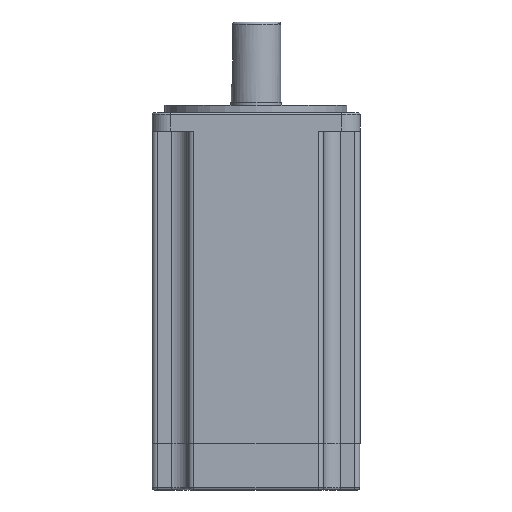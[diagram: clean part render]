
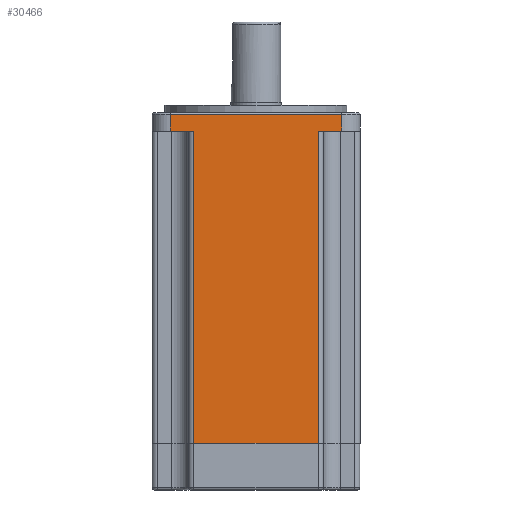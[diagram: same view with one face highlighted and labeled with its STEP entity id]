
A CAD part, front view. The second image highlights one B-rep face of the part: STEP entity #30466.
In plain terms, the highlighted planar face has unit normal (0, -1, 0).
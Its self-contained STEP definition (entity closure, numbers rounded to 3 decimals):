
#157 = VECTOR ( 'NONE', #29479, 1000. ) ;
#201 = LINE ( 'NONE', #25645, #12506 ) ;
#774 = VERTEX_POINT ( 'NONE', #10650 ) ;
#827 = ORIENTED_EDGE ( 'NONE', *, *, #15938, .T. ) ;
#940 = CARTESIAN_POINT ( 'NONE',  ( 33., -40., -0.5 ) ) ;
#1265 = VECTOR ( 'NONE', #30713, 1000. ) ;
#1709 = EDGE_CURVE ( 'NONE', #24470, #15819, #5233, .T. ) ;
#1771 = EDGE_CURVE ( 'NONE', #24470, #17342, #10955, .T. ) ;
#2164 = DIRECTION ( 'NONE',  ( 0., 0., 1. ) ) ;
#2236 = DIRECTION ( 'NONE',  ( 1., 0., 0. ) ) ;
#2256 = AXIS2_PLACEMENT_3D ( 'NONE', #13557, #30320, #2236 ) ;
#2413 = CARTESIAN_POINT ( 'NONE',  ( 33., -40., -7. ) ) ;
#2516 = CARTESIAN_POINT ( 'NONE',  ( -24., -40., -7. ) ) ;
#2786 = LINE ( 'NONE', #29350, #157 ) ;
#2924 = ORIENTED_EDGE ( 'NONE', *, *, #1709, .F. ) ;
#3229 = ORIENTED_EDGE ( 'NONE', *, *, #17495, .T. ) ;
#3668 = ORIENTED_EDGE ( 'NONE', *, *, #19502, .T. ) ;
#4318 = VERTEX_POINT ( 'NONE', #36435 ) ;
#4504 = EDGE_CURVE ( 'NONE', #35661, #4318, #2786, .T. ) ;
#5233 = LINE ( 'NONE', #32801, #19797 ) ;
#7886 = VERTEX_POINT ( 'NONE', #940 ) ;
#8916 = VECTOR ( 'NONE', #29388, 1000. ) ;
#10650 = CARTESIAN_POINT ( 'NONE',  ( -33., -40., -0.5 ) ) ;
#10955 = LINE ( 'NONE', #2516, #1265 ) ;
#11027 = DIRECTION ( 'NONE',  ( -1., 0., 0. ) ) ;
#11483 = LINE ( 'NONE', #16447, #30402 ) ;
#11919 = VECTOR ( 'NONE', #28107, 1000. ) ;
#12506 = VECTOR ( 'NONE', #34116, 1000. ) ;
#12531 = VECTOR ( 'NONE', #27009, 1000. ) ;
#13557 = CARTESIAN_POINT ( 'NONE',  ( -33., -40., -7. ) ) ;
#13702 = CARTESIAN_POINT ( 'NONE',  ( -24., -40., -127. ) ) ;
#14161 = EDGE_LOOP ( 'NONE', ( #3668, #3229, #17763, #2924, #25781, #36329, #827, #29037 ) ) ;
#14879 = CARTESIAN_POINT ( 'NONE',  ( 24., -40., -127. ) ) ;
#15162 = LINE ( 'NONE', #32529, #12531 ) ;
#15819 = VERTEX_POINT ( 'NONE', #26026 ) ;
#15938 = EDGE_CURVE ( 'NONE', #25485, #4318, #15162, .T. ) ;
#16447 = CARTESIAN_POINT ( 'NONE',  ( -33., -40., -7. ) ) ;
#17342 = VERTEX_POINT ( 'NONE', #13702 ) ;
#17495 = EDGE_CURVE ( 'NONE', #7886, #774, #201, .T. ) ;
#17763 = ORIENTED_EDGE ( 'NONE', *, *, #23453, .F. ) ;
#19418 = LINE ( 'NONE', #28957, #11919 ) ;
#19502 = EDGE_CURVE ( 'NONE', #35661, #7886, #25660, .T. ) ;
#19797 = VECTOR ( 'NONE', #11027, 1000. ) ;
#21037 = CARTESIAN_POINT ( 'NONE',  ( 33., -40., -7. ) ) ;
#23453 = EDGE_CURVE ( 'NONE', #15819, #774, #11483, .T. ) ;
#23477 = FACE_OUTER_BOUND ( 'NONE', #14161, .T. ) ;
#24470 = VERTEX_POINT ( 'NONE', #24616 ) ;
#24616 = CARTESIAN_POINT ( 'NONE',  ( -24., -40., -7. ) ) ;
#24786 = PLANE ( 'NONE',  #2256 ) ;
#25485 = VERTEX_POINT ( 'NONE', #14879 ) ;
#25645 = CARTESIAN_POINT ( 'NONE',  ( -33., -40., -0.5 ) ) ;
#25660 = LINE ( 'NONE', #21037, #8916 ) ;
#25781 = ORIENTED_EDGE ( 'NONE', *, *, #1771, .T. ) ;
#26026 = CARTESIAN_POINT ( 'NONE',  ( -33., -40., -7. ) ) ;
#27009 = DIRECTION ( 'NONE',  ( 0., 0., 1. ) ) ;
#28107 = DIRECTION ( 'NONE',  ( -1., 0., 0. ) ) ;
#28957 = CARTESIAN_POINT ( 'NONE',  ( -26., -40., -127. ) ) ;
#29037 = ORIENTED_EDGE ( 'NONE', *, *, #4504, .F. ) ;
#29350 = CARTESIAN_POINT ( 'NONE',  ( -33., -40., -7. ) ) ;
#29388 = DIRECTION ( 'NONE',  ( 0., 0., 1. ) ) ;
#29479 = DIRECTION ( 'NONE',  ( -1., 0., 0. ) ) ;
#30320 = DIRECTION ( 'NONE',  ( 0., 1., 0. ) ) ;
#30402 = VECTOR ( 'NONE', #2164, 1000. ) ;
#30466 = ADVANCED_FACE ( 'NONE', ( #23477 ), #24786, .F. ) ;
#30713 = DIRECTION ( 'NONE',  ( 0., 0., -1. ) ) ;
#32529 = CARTESIAN_POINT ( 'NONE',  ( 24., -40., -7. ) ) ;
#32801 = CARTESIAN_POINT ( 'NONE',  ( -33., -40., -7. ) ) ;
#34116 = DIRECTION ( 'NONE',  ( -1., 0., 0. ) ) ;
#35661 = VERTEX_POINT ( 'NONE', #2413 ) ;
#36187 = EDGE_CURVE ( 'NONE', #25485, #17342, #19418, .T. ) ;
#36329 = ORIENTED_EDGE ( 'NONE', *, *, #36187, .F. ) ;
#36435 = CARTESIAN_POINT ( 'NONE',  ( 24., -40., -7. ) ) ;
